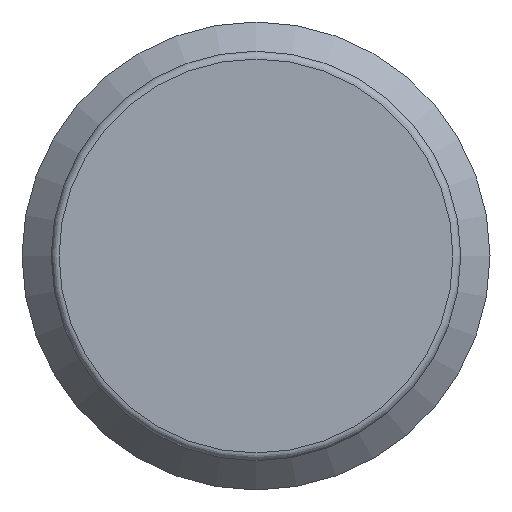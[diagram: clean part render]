
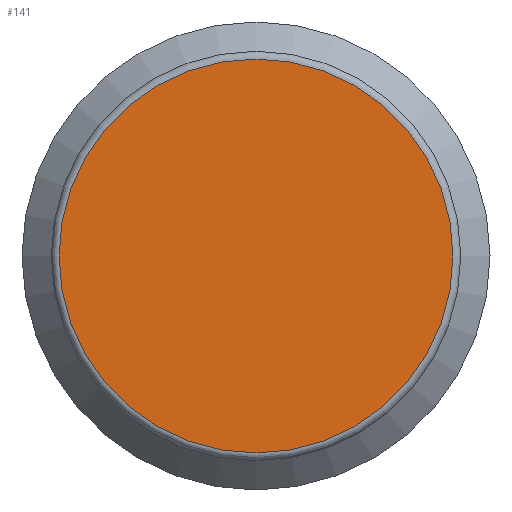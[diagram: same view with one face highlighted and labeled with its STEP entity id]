
A CAD part, left-side view. The second image highlights one B-rep face of the part: STEP entity #141.
In plain terms, the highlighted planar face has unit normal (-1, 0, 0).
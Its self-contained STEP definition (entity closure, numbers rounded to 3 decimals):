
#141 = ADVANCED_FACE( '', ( #260 ), #261, .F. );
#260 = FACE_OUTER_BOUND( '', #394, .T. );
#261 = PLANE( '', #395 );
#394 = EDGE_LOOP( '', ( #519 ) );
#395 = AXIS2_PLACEMENT_3D( '', #520, #521, #522 );
#519 = ORIENTED_EDGE( '', *, *, #749, .T. );
#520 = CARTESIAN_POINT( '', ( 0., 0., 0. ) );
#521 = DIRECTION( '', ( 1., 0., 0. ) );
#522 = DIRECTION( '', ( 0., 0., -1. ) );
#749 = EDGE_CURVE( '', #834, #834, #835, .F. );
#834 = VERTEX_POINT( '', #953 );
#835 = CIRCLE( '', #954, 5.05 );
#953 = CARTESIAN_POINT( '', ( 0., 0., -5.05 ) );
#954 = AXIS2_PLACEMENT_3D( '', #1090, #1091, #1092 );
#1090 = CARTESIAN_POINT( '', ( 0., 0., 0. ) );
#1091 = DIRECTION( '', ( 1., 0., 0. ) );
#1092 = DIRECTION( '', ( 0., 0., -1. ) );
